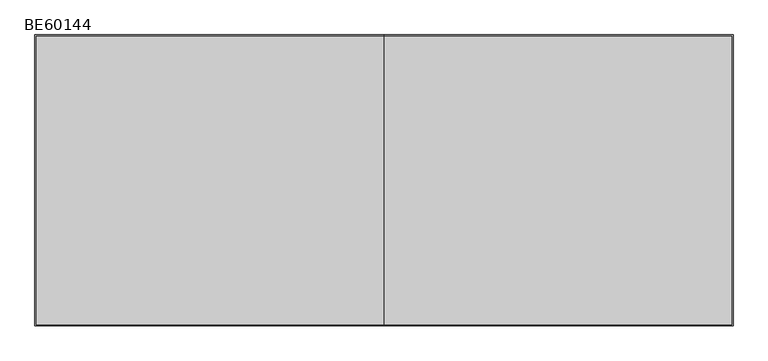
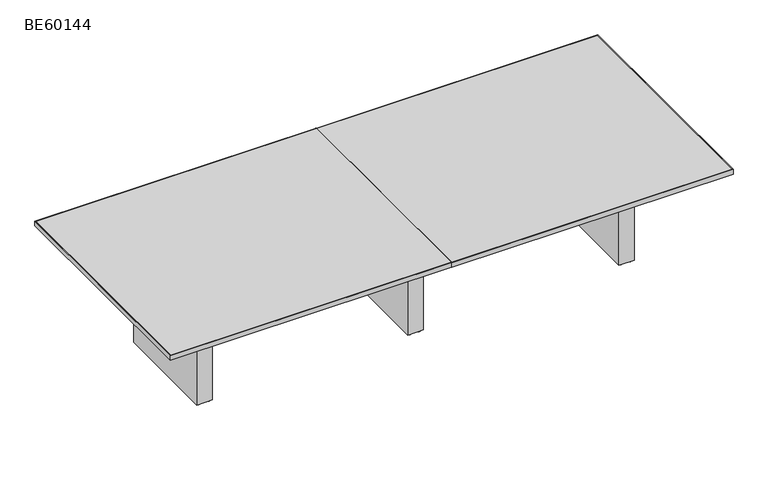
"""IFC4 building model written with IfcOpenShell, lengths in millimetres: furniture geometry, ERG-Beta-Conference_Table-Rectangle : BE60144."""

from ifc_helpers import new_model, si_unit, point, frame, frame_2d, origin, origin_with_axes, place, context, project, spatial, polyline, circle_curve, trimmed, segment, composite_curve, outline, extrude, source, transform, mapped, element, save


def be60144_a57a1f3c(model_context):
    return source(origin(), model_context, "Body", "SweptSolid", [
        extrude(outline(composite_curve([segment(trimmed(circle_curve(frame_2d((511.175, 390.276527)), 9.525), [point((501.65, 390.276527))], [point((520.7, 390.276527))], False, "CARTESIAN"), True, "CONTINUOUS"), segment(trimmed(circle_curve(frame_2d((511.175, 390.276527)), 9.525), [point((520.7, 390.276527))], [point((501.65, 390.276527))], False, "CARTESIAN"), True, "CONTINUOUS")], self_intersect=False)), origin_with_axes(), (0.0, 0.0, 1.0), 9.525),
        extrude(outline(composite_curve([segment(trimmed(circle_curve(frame_2d((574.675, 390.276527)), 9.525), [point((565.15, 390.276527))], [point((584.2, 390.276527))], False, "CARTESIAN"), True, "CONTINUOUS"), segment(trimmed(circle_curve(frame_2d((574.675, 390.276527)), 9.525), [point((584.2, 390.276527))], [point((565.15, 390.276527))], False, "CARTESIAN"), True, "CONTINUOUS")], self_intersect=False)), origin_with_axes(), (0.0, 0.0, 1.0), 9.525),
        extrude(outline(composite_curve([segment(trimmed(circle_curve(frame_2d((511.175, -282.823473)), 9.525), [point((501.65, -282.823473))], [point((520.7, -282.823473))], False, "CARTESIAN"), True, "CONTINUOUS"), segment(trimmed(circle_curve(frame_2d((511.175, -282.823473)), 9.525), [point((520.7, -282.823473))], [point((501.65, -282.823473))], False, "CARTESIAN"), True, "CONTINUOUS")], self_intersect=False)), origin_with_axes(), (0.0, 0.0, 1.0), 9.525),
        extrude(outline(composite_curve([segment(trimmed(circle_curve(frame_2d((574.675, -282.823473)), 9.525), [point((565.15, -282.823473))], [point((584.2, -282.823473))], False, "CARTESIAN"), True, "CONTINUOUS"), segment(trimmed(circle_curve(frame_2d((574.675, -282.823473)), 9.525), [point((584.2, -282.823473))], [point((565.15, -282.823473))], False, "CARTESIAN"), True, "CONTINUOUS")], self_intersect=False)), origin_with_axes(), (0.0, 0.0, 1.0), 9.525),
        extrude(outline(polyline([(593.725, 409.326527), (593.725, -301.873473), (492.125, -301.873473), (492.125, 409.326527), (593.725, 409.326527)])), frame((0.0, 0.0, 9.525), z_axis=(0.0, 0.0, 1.0), x_axis=(1.0, 0.0, 0.0)), (0.0, 0.0, 1.0), 695.3249758),
        extrude(outline(composite_curve([segment(trimmed(circle_curve(frame_2d((1882.775, 390.276527)), 9.525), [point((1873.25, 390.276527))], [point((1892.3, 390.276527))], False, "CARTESIAN"), True, "CONTINUOUS"), segment(trimmed(circle_curve(frame_2d((1882.775, 390.276527)), 9.525), [point((1892.3, 390.276527))], [point((1873.25, 390.276527))], False, "CARTESIAN"), True, "CONTINUOUS")], self_intersect=False)), origin_with_axes(), (0.0, 0.0, 1.0), 9.525),
        extrude(outline(composite_curve([segment(trimmed(circle_curve(frame_2d((1946.275, 390.276527)), 9.525), [point((1936.75, 390.276527))], [point((1955.8, 390.276527))], False, "CARTESIAN"), True, "CONTINUOUS"), segment(trimmed(circle_curve(frame_2d((1946.275, 390.276527)), 9.525), [point((1955.8, 390.276527))], [point((1936.75, 390.276527))], False, "CARTESIAN"), True, "CONTINUOUS")], self_intersect=False)), origin_with_axes(), (0.0, 0.0, 1.0), 9.525),
        extrude(outline(composite_curve([segment(trimmed(circle_curve(frame_2d((1882.775, -282.823473)), 9.525), [point((1873.25, -282.823473))], [point((1892.3, -282.823473))], False, "CARTESIAN"), True, "CONTINUOUS"), segment(trimmed(circle_curve(frame_2d((1882.775, -282.823473)), 9.525), [point((1892.3, -282.823473))], [point((1873.25, -282.823473))], False, "CARTESIAN"), True, "CONTINUOUS")], self_intersect=False)), origin_with_axes(), (0.0, 0.0, 1.0), 9.525),
        extrude(outline(composite_curve([segment(trimmed(circle_curve(frame_2d((1946.275, -282.823473)), 9.525), [point((1936.75, -282.823473))], [point((1955.8, -282.823473))], False, "CARTESIAN"), True, "CONTINUOUS"), segment(trimmed(circle_curve(frame_2d((1946.275, -282.823473)), 9.525), [point((1955.8, -282.823473))], [point((1936.75, -282.823473))], False, "CARTESIAN"), True, "CONTINUOUS")], self_intersect=False)), origin_with_axes(), (0.0, 0.0, 1.0), 9.525),
        extrude(outline(polyline([(1965.325, 409.326527), (1965.325, -301.873473), (1863.725, -301.873473), (1863.725, 409.326527), (1965.325, 409.326527)])), frame((0.0, 0.0, 9.525), z_axis=(0.0, 0.0, 1.0), x_axis=(1.0, 0.0, 0.0)), (0.0, 0.0, 1.0), 695.3249758),
        extrude(outline(composite_curve([segment(trimmed(circle_curve(frame_2d((-860.425, 390.276527)), 9.525), [point((-869.95, 390.276527))], [point((-850.9, 390.276527))], False, "CARTESIAN"), True, "CONTINUOUS"), segment(trimmed(circle_curve(frame_2d((-860.425, 390.276527)), 9.525), [point((-850.9, 390.276527))], [point((-869.95, 390.276527))], False, "CARTESIAN"), True, "CONTINUOUS")], self_intersect=False)), origin_with_axes(), (0.0, 0.0, 1.0), 9.525),
        extrude(outline(composite_curve([segment(trimmed(circle_curve(frame_2d((-796.925, 390.276527)), 9.525), [point((-806.45, 390.276527))], [point((-787.4, 390.276527))], False, "CARTESIAN"), True, "CONTINUOUS"), segment(trimmed(circle_curve(frame_2d((-796.925, 390.276527)), 9.525), [point((-787.4, 390.276527))], [point((-806.45, 390.276527))], False, "CARTESIAN"), True, "CONTINUOUS")], self_intersect=False)), origin_with_axes(), (0.0, 0.0, 1.0), 9.525),
        extrude(outline(composite_curve([segment(trimmed(circle_curve(frame_2d((-860.425, -282.823473)), 9.525), [point((-869.95, -282.823473))], [point((-850.9, -282.823473))], False, "CARTESIAN"), True, "CONTINUOUS"), segment(trimmed(circle_curve(frame_2d((-860.425, -282.823473)), 9.525), [point((-850.9, -282.823473))], [point((-869.95, -282.823473))], False, "CARTESIAN"), True, "CONTINUOUS")], self_intersect=False)), origin_with_axes(), (0.0, 0.0, 1.0), 9.525),
        extrude(outline(composite_curve([segment(trimmed(circle_curve(frame_2d((-796.925, -282.823473)), 9.525), [point((-806.45, -282.823473))], [point((-787.4, -282.823473))], False, "CARTESIAN"), True, "CONTINUOUS"), segment(trimmed(circle_curve(frame_2d((-796.925, -282.823473)), 9.525), [point((-787.4, -282.823473))], [point((-806.45, -282.823473))], False, "CARTESIAN"), True, "CONTINUOUS")], self_intersect=False)), origin_with_axes(), (0.0, 0.0, 1.0), 9.525),
        extrude(outline(polyline([(-777.875, 409.326527), (-777.875, -301.873473), (-879.475, -301.873473), (-879.475, 409.326527), (-777.875, 409.326527)])), frame((0.0, 0.0, 9.525), z_axis=(0.0, 0.0, 1.0), x_axis=(1.0, 0.0, 0.0)), (0.0, 0.0, 1.0), 695.3249758),
        extrude(outline(polyline([(2371.725, 815.726527), (2371.725, -708.273473), (544.5125, -708.273473), (544.5125, -705.098473), (2368.55, -705.098473), (2368.55, 812.551527), (544.5125, 812.551527), (544.5125, 815.726527), (2371.725, 815.726527)])), frame((0.0, 0.0, 704.85), z_axis=(0.0, 0.0, 1.0), x_axis=(1.0, 0.0, 0.0)), (0.0, 0.0, 1.0), 31.75),
        extrude(outline(polyline([(-1285.875, -708.273473), (-1285.875, 815.726527), (541.3375, 815.726527), (541.3375, 812.551527), (-1282.7, 812.551527), (-1282.7, -705.098473), (541.3375, -705.098473), (541.3375, -708.273473), (-1285.875, -708.273473)])), frame((0.0, 0.0, 704.85), z_axis=(0.0, 0.0, 1.0), x_axis=(1.0, 0.0, 0.0)), (0.0, 0.0, 1.0), 31.75),
        extrude(outline(polyline([(2368.55, 812.551527), (2368.55, -705.098473), (544.5125, -705.098473), (544.5125, 812.551527), (2368.55, 812.551527)])), frame((0.0, 0.0, 704.85), z_axis=(0.0, 0.0, 1.0), x_axis=(1.0, 0.0, 0.0)), (0.0, 0.0, 1.0), 31.75),
        extrude(outline(polyline([(-1282.7, -705.098473), (-1282.7, 812.551527), (541.3375, 812.551527), (541.3375, -705.098473), (-1282.7, -705.098473)])), frame((0.0, 0.0, 704.85), z_axis=(0.0, 0.0, 1.0), x_axis=(1.0, 0.0, 0.0)), (0.0, 0.0, 1.0), 31.75),
    ])


if __name__ == "__main__":
    model = new_model("IFC4")
    model_context = context("Model", 3, world=origin())
    ifc_project = project(units=[si_unit("LENGTHUNIT", "METRE", prefix="MILLI")], contexts=[model_context])
    site = spatial("IfcSite", under=ifc_project)
    building = spatial("IfcBuilding", under=site)
    placement = place(None, origin())
    be60144_shape = be60144_a57a1f3c(model_context)
    element("IfcFurniture", 1, ObjectType="ERG-Beta-Conference_Table-Rectangle : BE60144", at=placement, inside=building, context=model_context, shape_type="MappedRepresentation", body=[
        mapped(be60144_shape, transform((0.0, 0.0, 0.0), x_axis=(1.0, 0.0, 0.0), y_axis=(0.0, 1.0, 0.0), z_axis=(0.0, 0.0, 1.0))),
    ])
    save(model, "model.ifc")
